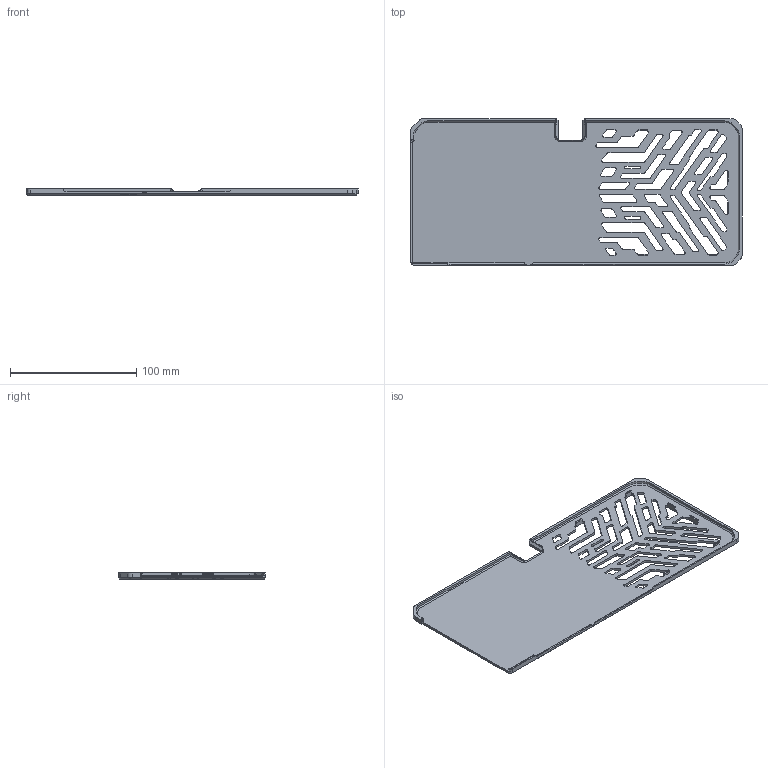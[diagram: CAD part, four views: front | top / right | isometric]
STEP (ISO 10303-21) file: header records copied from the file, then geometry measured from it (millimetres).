
FILE_DESCRIPTION((''),'2;1');
FILE_NAME('PC013-1B0_BACKPLATE_2','2025-04-23T13:33:28',('Kate'),(''),'CREO PARAMETRIC BY PTC INC, 2021304','CREO PARAMETRIC BY PTC INC, 2021304','');
FILE_SCHEMA(('AUTOMOTIVE_DESIGN { 1 0 10303 214 1 1 1 1 }'));
Length unit declared in the file: millimetre
Products named in the file (1): PC013-1B0_BACKPLATE_2
Bounding box: 263.1 x 116.25 x 4.8 mm (x, y, z)
Volume: 48925.8 mm3; surface area: 60033.3 mm2
Topology: 1 solids, 1 shells, 1372 faces, 3966 edges, 2615 vertices
Faces by surface type: plane 863, cylinder 456, cone 25, extrusion 20, revolution 4, bspline 4
Entity records: 47338 total; most frequent: CARTESIAN_POINT 8724, ORIENTED_EDGE 7926, DIRECTION 7501, EDGE_CURVE 3963, VECTOR 2959, LINE 2939, VERTEX_POINT 2615, AXIS2_PLACEMENT_3D 2269
